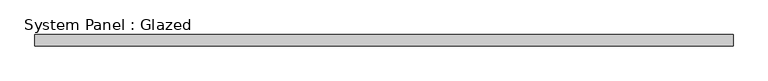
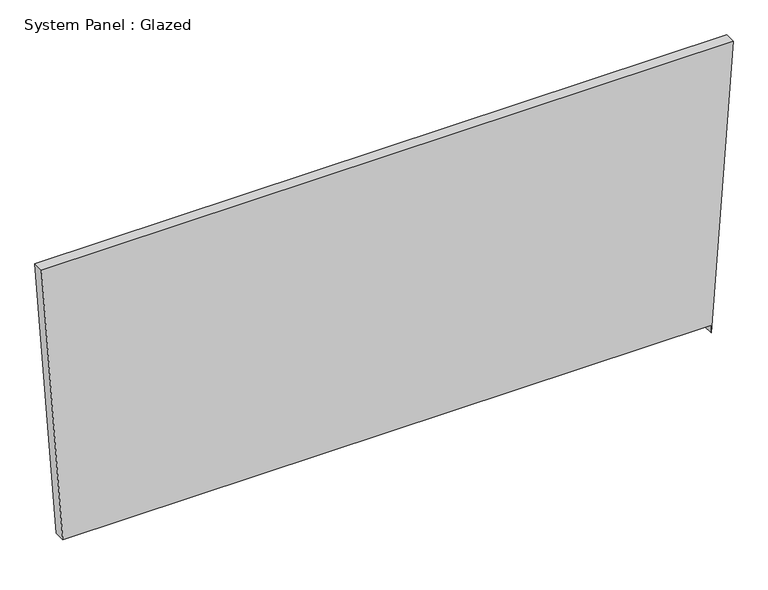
"""IFC4 building model written with IfcOpenShell, lengths in millimetres: plate geometry, System Panel : Glazed."""

from ifc_helpers import new_model, si_unit, frame, origin, place, context, project, spatial, polyline, outline, extrude, source, transform, mapped, element, save


def system_panel_glazed_97049040(model_context):
    return source(origin(), model_context, "Body", "SweptSolid", [
        extrude(outline(polyline([(19.05, 735.3670487), (0.0, 735.3670408), (682.4582085, 785.0953463), (682.458859, -785.0953463), (19.0506099, -736.7551437), (19.05, 735.3670487)])), frame((0.0, 19.05, 0.0), z_axis=(0.0, 1.0, 0.0), x_axis=(0.0, 0.0, 1.0)), (0.0, 0.0, 1.0), 25.4),
    ])


if __name__ == "__main__":
    model = new_model("IFC4")
    model_context = context("Model", 3, world=origin())
    ifc_project = project(units=[si_unit("LENGTHUNIT", "METRE", prefix="MILLI")], contexts=[model_context])
    site = spatial("IfcSite", under=ifc_project)
    building = spatial("IfcBuilding", under=site)
    placement = place(None, origin())
    system_panel_glazed_shape = system_panel_glazed_97049040(model_context)
    element("IfcPlate", 1, ObjectType="System Panel : Glazed", at=placement, inside=building, context=model_context, shape_type="MappedRepresentation", body=[
        mapped(system_panel_glazed_shape, transform((0.0, 0.0, 0.0), x_axis=(1.0, 0.0, 0.0), y_axis=(0.0, 1.0, 0.0), z_axis=(0.0, 0.0, 1.0))),
    ])
    save(model, "model.ifc")
